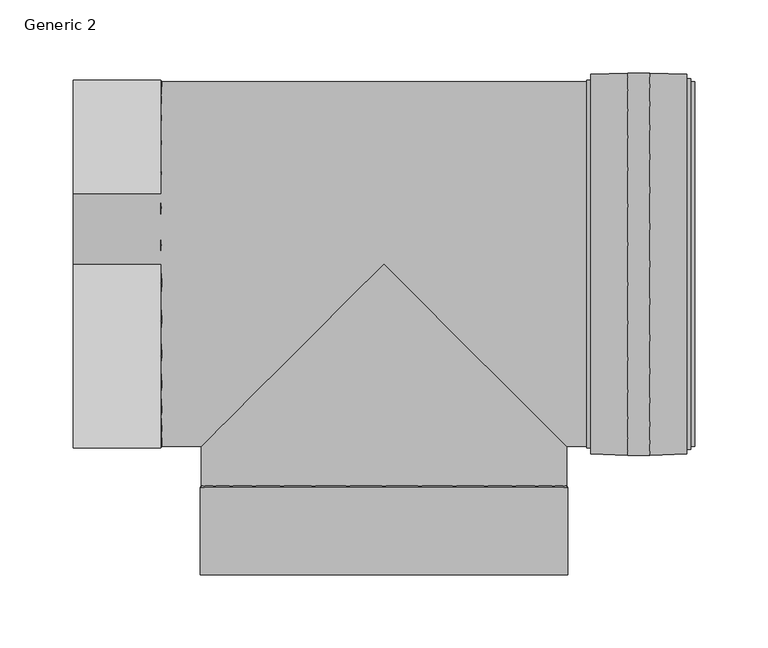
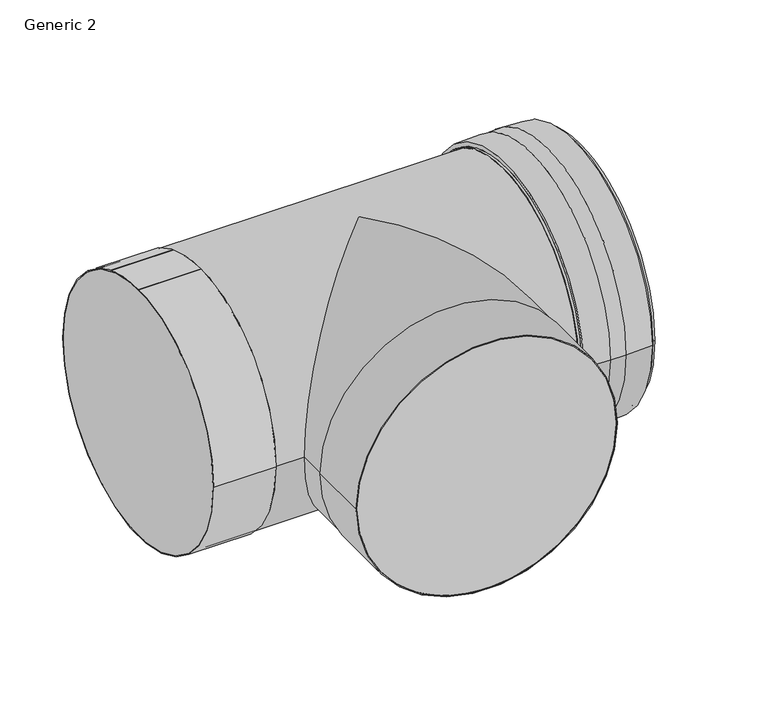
"""IFC4 building model written with IfcOpenShell, lengths in millimetres: pipe fitting geometry, CADS_Jeremias_Tee1 : Generic 2."""

import ifcopenshell
import ifcopenshell.guid

model = None  # the IFC model being written
_history = None  # IfcOwnerHistory: only IFC2X3 demands one
_inside = {}  # id of a spatial element -> (the spatial element, [elements in it])
_under = {}  # id of a project, library or spatial element -> (it, [spatial elements below it])
_declared = {}  # id of a project -> (the project, [libraries it declares])
_typed = {}  # id of a type object -> (the type object, [elements of that type])
_made_of = {}  # id of a material, layer set ... -> (it, [elements and type objects made of it])


def new_model(schema):
    """Start an empty IFC model of exactly this schema.

    Asked for "IFC4X3", IfcOpenShell would pick the latest addendum, in which some entities
    have other attributes; the version numbers below select the first issue.
    IFC2X3 requires an IfcOwnerHistory on every rooted entity: one is made here for all.
    """
    global model, _history
    if schema == "IFC4X3":
        model = ifcopenshell.file(schema_version=(4, 3, 0, 0))
    else:
        model = ifcopenshell.file(schema=schema)
    _inside.clear()
    _under.clear()
    _declared.clear()
    _typed.clear()
    _made_of.clear()
    _history = None
    if model.schema == "IFC2X3":
        org = make("IfcOrganization", Name="unknown")
        user = make(
            "IfcPersonAndOrganization",
            ThePerson=make("IfcPerson", FamilyName="unknown"),
            TheOrganization=org,
        )
        app = make(
            "IfcApplication",
            ApplicationDeveloper=org,
            Version="unknown",
            ApplicationFullName="unknown",
            ApplicationIdentifier="unknown",
        )
        _history = make(
            "IfcOwnerHistory",
            OwningUser=user,
            OwningApplication=app,
            ChangeAction="ADDED",
            CreationDate=0,
        )
    return model


def make(cls, **values):
    """One entity of the class cls with the attributes given. An attribute that is None is left unset."""
    return model.create_entity(
        cls, **{name: value for name, value in values.items() if value is not None}
    )


def rooted(cls, **values):
    """An entity with a GlobalId (a new one), such as an element, a storey or a relation."""
    return make(cls, GlobalId=ifcopenshell.guid.new(), OwnerHistory=_history, **values)


def si_unit(unit_type, name, prefix=None):
    """IfcSIUnit, for example si_unit("LENGTHUNIT", "METRE", prefix="MILLI")."""
    return make("IfcSIUnit", UnitType=unit_type, Prefix=prefix, Name=name)


def assignment(units):
    """IfcUnitAssignment: the units of a project."""
    return None if units is None else make("IfcUnitAssignment", Units=units)


def point(xyz):
    """IfcCartesianPoint."""
    return None if xyz is None else make("IfcCartesianPoint", Coordinates=xyz)


def direction(xyz):
    """IfcDirection."""
    return None if xyz is None else make("IfcDirection", DirectionRatios=xyz)


def frame(location, z_axis=None, x_axis=None):
    """IfcAxis2Placement3D, a coordinate frame: its origin and axes. An axis left out is left unset."""
    return make(
        "IfcAxis2Placement3D",
        Location=point(location),
        Axis=direction(z_axis),
        RefDirection=direction(x_axis),
    )


def origin():
    """The frame at (0, 0, 0) with its axes left unset."""
    return frame((0.0, 0.0, 0.0))


def place(relative_to, where):
    """IfcLocalPlacement: puts the frame where relative to a parent placement (None: the world)."""
    return make(
        "IfcLocalPlacement", PlacementRelTo=relative_to, RelativePlacement=where
    )


def context(
    kind, dimensions, precision=None, world=None, true_north=None, identifier=None
):
    """IfcGeometricRepresentationContext, for example the 3D "Model" context."""
    return make(
        "IfcGeometricRepresentationContext",
        ContextIdentifier=identifier,
        ContextType=kind,
        CoordinateSpaceDimension=dimensions,
        Precision=precision,
        WorldCoordinateSystem=world,
        TrueNorth=true_north,
    )


def project(units=None, contexts=None):
    """IfcProject with its units and contexts."""
    return rooted(
        "IfcProject",
        Name="project",
        RepresentationContexts=contexts,
        UnitsInContext=assignment(units),
    )


def spatial(cls, under=None, at=None, **own):
    """A site, building, storey or space (cls), placed at a placement, below another one or the project."""
    s = rooted(cls, ObjectPlacement=at, **own)
    if under is not None:
        _under.setdefault(under.id(), (under, []))[1].append(s)
    return s


def polyline(points):
    """IfcPolyline through the points."""
    return make("IfcPolyline", Points=[point(p) for p in points])


def circle_curve(where, radius):
    """IfcCircle in the frame where."""
    return make("IfcCircle", Position=where, Radius=radius)


def ellipse_curve(where, semi_axis1, semi_axis2):
    """IfcEllipse in the frame where."""
    return make(
        "IfcEllipse", Position=where, SemiAxis1=semi_axis1, SemiAxis2=semi_axis2
    )


def trimmed(basis, trim1, trim2, sense, master):
    """IfcTrimmedCurve: the piece of a basis curve between two trims."""
    return make(
        "IfcTrimmedCurve",
        BasisCurve=basis,
        Trim1=trim1,
        Trim2=trim2,
        SenseAgreement=sense,
        MasterRepresentation=master,
    )


def shape(context_of_items, identifier, shape_type, items):
    """IfcShapeRepresentation: the items that make up one representation, for example the "Body"."""
    return make(
        "IfcShapeRepresentation",
        ContextOfItems=context_of_items,
        RepresentationIdentifier=identifier,
        RepresentationType=shape_type,
        Items=items,
    )


def source(mapping_origin, context_of_items, identifier, shape_type, items):
    """IfcRepresentationMap: a shape defined once, which mapped items show again and again."""
    return make(
        "IfcRepresentationMap",
        MappingOrigin=mapping_origin,
        MappedRepresentation=shape(context_of_items, identifier, shape_type, items),
    )


def transform(
    local_origin,
    x_axis=None,
    y_axis=None,
    z_axis=None,
    scale=None,
    scale2=None,
    scale3=None,
    uniform=True,
):
    """IfcCartesianTransformationOperator3D, or its non-uniform kind. x_axis, y_axis, z_axis: its Axis1, 2, 3."""
    if uniform:
        return make(
            "IfcCartesianTransformationOperator3D",
            Axis1=direction(x_axis),
            Axis2=direction(y_axis),
            LocalOrigin=point(local_origin),
            Scale=scale,
            Axis3=direction(z_axis),
        )
    return make(
        "IfcCartesianTransformationOperator3DnonUniform",
        Axis1=direction(x_axis),
        Axis2=direction(y_axis),
        LocalOrigin=point(local_origin),
        Scale=scale,
        Axis3=direction(z_axis),
        Scale2=scale2,
        Scale3=scale3,
    )


def mapped(mapping_source, mapping_target):
    """IfcMappedItem: shows the shape of a source again, moved by a transform."""
    return make(
        "IfcMappedItem", MappingSource=mapping_source, MappingTarget=mapping_target
    )


def made_of(thing, what):
    """Note that an element or type object is made of a material, layer set ...; save() writes the relation."""
    if what is not None:
        _made_of.setdefault(what.id(), (what, []))[1].append(thing)
    return thing


def element(
    cls,
    number,
    at=None,
    inside=None,
    cuts=None,
    type_object=None,
    material=None,
    context=None,
    identifier="Body",
    shape_type=None,
    held_by="IfcProductDefinitionShape",
    body=None,
    shapes=None,
    **own,
):
    """One element of the class cls, such as IfcWall. Its Tag is "e" and its number.

    at: its placement. inside: the storey or other place that contains it. cuts: it is an
    opening in that element (IfcRelVoidsElement). A single representation is given by context,
    identifier, shape_type and body (its items); several are given by shapes. held_by: the class
    of the entity that holds the representations. save() writes the other relations.
    """
    e = rooted(cls, Tag="e%d" % number, ObjectPlacement=at, **own)
    if body is not None:
        shapes = [shape(context, identifier, shape_type, body)]
    if shapes is not None:
        e.Representation = make(held_by, Representations=shapes)
    if inside is not None:
        _inside.setdefault(inside.id(), (inside, []))[1].append(e)
    if cuts is not None:
        rooted(
            "IfcRelVoidsElement", RelatingBuildingElement=cuts, RelatedOpeningElement=e
        )
    if type_object is not None:
        _typed.setdefault(type_object.id(), (type_object, []))[1].append(e)
    return made_of(e, material)


def aggregate(whole, parts):
    """IfcRelAggregates: a whole, such as a stair, and the parts it consists of."""
    return rooted("IfcRelAggregates", RelatingObject=whole, RelatedObjects=parts)


def save(model, path):
    """Write the relations noted so far, then the file.

    IfcRelAggregates (storeys below a building ...), IfcRelContainedInSpatialStructure (elements
    in a storey), IfcRelDefinesByType, IfcRelAssociatesMaterial and IfcRelDeclares: one each for
    every whole, place, type object, material and project.
    """
    for whole, parts in _under.values():
        aggregate(whole, parts)
    for where, things in _inside.values():
        rooted(
            "IfcRelContainedInSpatialStructure",
            RelatedElements=things,
            RelatingStructure=where,
        )
    for kind, things in _typed.values():
        rooted("IfcRelDefinesByType", RelatedObjects=things, RelatingType=kind)
    for what, things in _made_of.values():
        rooted("IfcRelAssociatesMaterial", RelatedObjects=things, RelatingMaterial=what)
    for by, libraries in _declared.values():
        rooted("IfcRelDeclares", RelatingContext=by, RelatedDefinitions=libraries)
    model.write(path)


def plane_surface(at):
    """IfcPlane: the flat surface through the origin of the frame at, square to its z axis."""
    return make("IfcPlane", Position=at)


def cylinder_surface(at, radius):
    """IfcCylindricalSurface: all points at the distance radius from the z axis of the frame at."""
    return make("IfcCylindricalSurface", Position=at, Radius=radius)


def revolved_surface(curve, axis_point, axis_direction):
    """IfcSurfaceOfRevolution: the curve turned about the line through axis_point along axis_direction."""
    return make(
        "IfcSurfaceOfRevolution",
        SweptCurve=make("IfcArbitraryOpenProfileDef", ProfileType="CURVE", Curve=curve),
        AxisPosition=make("IfcAxis1Placement", Location=point(axis_point), Axis=direction(axis_direction)),
    )


def advanced_brep(points, edges, surfaces, faces):
    """IfcAdvancedBrep: a solid bounded by faces that lie on surfaces and meet in shared edges.

    An edge is (start, end): straight between two places in points (the first is 0);
    or (start, end, curve); or (start, end, curve, False) where it runs against its curve.
    A face is (place in surfaces, loops), or (place, loops, False) where it looks against
    its surface's normal. A loop lists edges by number (the first is 1), with a minus sign
    where the edge is run from its end to its start. The first loop is the outer one.
    """
    corners = [point(p) for p in points]
    vertices = [make("IfcVertexPoint", VertexGeometry=c) for c in corners]
    made = []
    for start, end, *more in edges:
        made.append(
            make(
                "IfcEdgeCurve",
                EdgeStart=vertices[start],
                EdgeEnd=vertices[end],
                EdgeGeometry=more[0] if more else make("IfcPolyline", Points=[corners[start], corners[end]]),
                SameSense=more[1] if len(more) > 1 else True,
            )
        )
    hull = []
    for where, loops, *sense in faces:
        bounds = []
        for j, loop in enumerate(loops):
            ring = [make("IfcOrientedEdge", EdgeElement=made[abs(k) - 1], Orientation=k > 0) for k in loop]
            bounds.append(
                make(
                    "IfcFaceOuterBound" if j == 0 else "IfcFaceBound",
                    Bound=make("IfcEdgeLoop", EdgeList=ring),
                    Orientation=True,
                )
            )
        hull.append(make("IfcAdvancedFace", Bounds=bounds, FaceSurface=surfaces[where], SameSense=sense[0] if sense else True))
    return make("IfcAdvancedBrep", Outer=make("IfcClosedShell", CfsFaces=hull))


def generic_2_eab2cc1d(model_context):
    return source(origin(), model_context, "Body", "AdvancedBrep", [
        advanced_brep(
        [(209.9642357, -125.0, 0.0), (209.9642357, 125.0, 0.0), (139.0, 125.0, 0.0), (139.0, -125.0, 0.0), (207.4642357, -127.0, 0.0), (207.4642357, 127.0, 0.0), (209.9642357, 127.0, 0.0), (209.9642357, -127.0, 0.0), (139.0, -126.0062895, 0.0), (139.0, 126.0062895, 0.0), (141.5, 126.0062895, 0.0), (141.5, -126.0062895, 0.0), (207.4642357, 130.0, 0.0), (207.4642357, -130.0, 0.0), (141.5, -130.0, 0.0), (141.5, 130.0, 0.0), (181.9821179, -130.9818268, 0.0), (181.9821179, 130.9818268, 0.0), (166.9821179, -130.9818268, 0.0), (166.9821179, 130.9818268, 0.0)],
        [
            (0, 1, circle_curve(frame((209.9642357, 0.0, 0.0), z_axis=(1.0, 0.0, 0.0), x_axis=(0.0, 1.0, 0.0)), 125.0)),
            (1, 2),
            (2, 3, circle_curve(frame((139.0, 0.0, 0.0), z_axis=(-1.0, 0.0, 0.0), x_axis=(0.0, 1.0, 0.0)), 125.0)),
            (3, 0),
            (4, 5, circle_curve(frame((207.4642357, 0.0, 0.0), z_axis=(1.0, 0.0, 0.0), x_axis=(0.0, 1.0, 0.0)), 127.0)),
            (5, 6),
            (6, 7, circle_curve(frame((209.9642357, 0.0, 0.0), z_axis=(-1.0, 0.0, 0.0), x_axis=(0.0, 1.0, 0.0)), 127.0)),
            (7, 4),
            (8, 9, circle_curve(frame((139.0, 0.0, 0.0), z_axis=(1.0, 0.0, 0.0), x_axis=(0.0, 1.0, 0.0)), 126.0062895)),
            (9, 10),
            (10, 11, circle_curve(frame((141.5, 0.0, 0.0), z_axis=(-1.0, 0.0, 0.0), x_axis=(0.0, 1.0, 0.0)), 126.0062895)),
            (11, 8),
            (8, 9, circle_curve(frame((139.0, 0.0, 0.0), z_axis=(-1.0, 0.0, 0.0), x_axis=(0.0, -1.0, 0.0)), 126.0062895)),
            (2, 3, circle_curve(frame((139.0, 0.0, 0.0), z_axis=(1.0, 0.0, 0.0), x_axis=(0.0, -1.0, 0.0)), 125.0)),
            (1, 0, circle_curve(frame((209.9642357, 0.0, 0.0), z_axis=(1.0, 0.0, 0.0), x_axis=(0.0, -1.0, 0.0)), 125.0)),
            (6, 7, circle_curve(frame((209.9642357, 0.0, 0.0), z_axis=(1.0, 0.0, 0.0), x_axis=(0.0, -1.0, 0.0)), 127.0)),
            (5, 4, circle_curve(frame((207.4642357, 0.0, 0.0), z_axis=(1.0, 0.0, 0.0), x_axis=(0.0, -1.0, 0.0)), 127.0)),
            (12, 13, circle_curve(frame((207.4642357, 0.0, 0.0), z_axis=(1.0, 0.0, 0.0), x_axis=(0.0, -1.0, 0.0)), 130.0)),
            (13, 12, circle_curve(frame((207.4642357, 0.0, 0.0), z_axis=(1.0, 0.0, 0.0), x_axis=(0.0, 1.0, 0.0)), 130.0)),
            (14, 15, circle_curve(frame((141.5, 0.0, 0.0), z_axis=(-1.0, 0.0, 0.0), x_axis=(0.0, -1.0, 0.0)), 130.0)),
            (15, 14, circle_curve(frame((141.5, 0.0, 0.0), z_axis=(-1.0, 0.0, 0.0), x_axis=(0.0, 1.0, 0.0)), 130.0)),
            (10, 11, circle_curve(frame((141.5, 0.0, 0.0), z_axis=(1.0, 0.0, 0.0), x_axis=(0.0, -1.0, 0.0)), 126.0062895)),
            (16, 17, circle_curve(frame((181.9821179, 0.0, 0.0), z_axis=(1.0, 0.0, 0.0), x_axis=(0.0, 1.0, 0.0)), 130.9818268)),
            (17, 12, circle_curve(frame((181.9821179, -200.1877444, 0.0), z_axis=(0.0, 0.0, -1.0), x_axis=(0.0, -1.0, 0.0)), 331.1695712)),
            (13, 16, circle_curve(frame((181.9821179, 200.1877444, 0.0), z_axis=(0.0, 0.0, -1.0), x_axis=(0.0, 1.0, 0.0)), 331.1695712)),
            (18, 19, circle_curve(frame((166.9821179, 0.0, 0.0), z_axis=(1.0, 0.0, 0.0), x_axis=(0.0, 1.0, 0.0)), 130.9818268)),
            (19, 17),
            (16, 18),
            (15, 19, circle_curve(frame((166.9821179, -200.1877444, 0.0), z_axis=(0.0, 0.0, -1.0), x_axis=(0.0, -1.0, 0.0)), 331.1695712)),
            (18, 14, circle_curve(frame((166.9821179, 200.1877444, 0.0), z_axis=(0.0, 0.0, -1.0), x_axis=(0.0, 1.0, 0.0)), 331.1695712)),
            (17, 16, circle_curve(frame((181.9821179, 0.0, 0.0), z_axis=(1.0, 0.0, 0.0), x_axis=(0.0, -1.0, 0.0)), 130.9818268)),
            (19, 18, circle_curve(frame((166.9821179, 0.0, 0.0), z_axis=(1.0, 0.0, 0.0), x_axis=(0.0, -1.0, 0.0)), 130.9818268)),
        ],
        [
            revolved_surface(polyline([(139.0, 125.0, 0.0), (209.9642357, 125.0, 0.0)]), (153.0, 0.0, 0.0), (-1.0, 0.0, 0.0)),
            cylinder_surface(frame((153.0, 0.0, 0.0), z_axis=(-1.0, 0.0, 0.0), x_axis=(0.0, 1.0, 0.0)), 127.0),
            cylinder_surface(frame((153.0, 0.0, 0.0), z_axis=(-1.0, 0.0, 0.0), x_axis=(0.0, 1.0, 0.0)), 126.0062895),
            plane_surface(frame((139.0, 0.0, 0.0), z_axis=(-1.0, 0.0, 0.0), x_axis=(0.0, -1.0, 0.0))),
            revolved_surface(polyline([(139.0, -125.0, 0.0), (209.9642357, -125.0, 0.0)]), (153.0, 0.0, 0.0), (-1.0, 0.0, 0.0)),
            plane_surface(frame((209.9642357, 0.0, 0.0), z_axis=(1.0, 0.0, 0.0), x_axis=(0.0, -1.0, 0.0))),
            cylinder_surface(frame((153.0, 0.0, 0.0), z_axis=(-1.0, 0.0, 0.0), x_axis=(0.0, -1.0, 0.0)), 127.0),
            plane_surface(frame((207.4642357, 0.0, 0.0), z_axis=(1.0, 0.0, 0.0), x_axis=(0.0, -1.0, 0.0))),
            plane_surface(frame((141.5, 0.0, 0.0), z_axis=(-1.0, 0.0, 0.0), x_axis=(0.0, -1.0, 0.0))),
            cylinder_surface(frame((153.0, 0.0, 0.0), z_axis=(-1.0, 0.0, 0.0), x_axis=(0.0, -1.0, 0.0)), 126.0062895),
            revolved_surface(trimmed(ellipse_curve(frame((181.9821179, -200.1877444, 0.0), z_axis=(0.0, 0.0, 1.0), x_axis=(0.0, -1.0, 0.0)), 331.1695712, 331.1695712), [point((207.4642357, 130.0, 0.0))], [point((181.9821179, 130.9818268, 0.0))], True, "CARTESIAN"), (153.0, 0.0, 0.0), (-1.0, 0.0, 0.0)),
            cylinder_surface(frame((153.0, 0.0, 0.0), z_axis=(-1.0, 0.0, 0.0), x_axis=(0.0, 1.0, 0.0)), 130.9818268),
            revolved_surface(trimmed(ellipse_curve(frame((166.9821179, -200.1877444, 0.0), z_axis=(0.0, 0.0, 1.0), x_axis=(0.0, -1.0, 0.0)), 331.1695712, 331.1695712), [point((166.9821179, 130.9818268, 0.0))], [point((141.5, 130.0, 0.0))], True, "CARTESIAN"), (153.0, 0.0, 0.0), (-1.0, 0.0, 0.0)),
            revolved_surface(trimmed(ellipse_curve(frame((181.9821179, 200.1877444, 0.0), z_axis=(0.0, 0.0, -1.0), x_axis=(0.0, 1.0, 0.0)), 331.1695712, 331.1695712), [point((207.4642357, -130.0, 0.0))], [point((181.9821179, -130.9818268, 0.0))], True, "CARTESIAN"), (153.0, 0.0, 0.0), (-1.0, 0.0, 0.0)),
            cylinder_surface(frame((153.0, 0.0, 0.0), z_axis=(-1.0, 0.0, 0.0), x_axis=(0.0, -1.0, 0.0)), 130.9818268),
            revolved_surface(trimmed(ellipse_curve(frame((166.9821179, 200.1877444, 0.0), z_axis=(0.0, 0.0, -1.0), x_axis=(0.0, 1.0, 0.0)), 331.1695712, 331.1695712), [point((166.9821179, -130.9818268, 0.0))], [point((141.5, -130.0, 0.0))], True, "CARTESIAN"), (153.0, 0.0, 0.0), (-1.0, 0.0, 0.0)),
        ],
        [
            (0, [[1, 2, 3, 4]]),
            (1, [[5, 6, 7, 8]]),
            (2, [[9, 10, 11, 12]]),
            (3, [[13, -9], [14, -3]]),
            (4, [[15, -4, -14, -2]]),
            (5, [[16, -7], [-15, -1]]),
            (6, [[17, -8, -16, -6]]),
            (7, [[18, 19], [-17, -5]]),
            (8, [[20, 21], [22, -11]]),
            (9, [[-13, -12, -22, -10]]),
            (10, [[23, 24, -19, 25]]),
            (11, [[26, 27, -23, 28]]),
            (12, [[-21, 29, -26, 30]]),
            (13, [[31, -25, -18, -24]]),
            (14, [[32, -28, -31, -27]]),
            (15, [[-20, -30, -32, -29]]),
        ],
    ),
        advanced_brep(
        [(-126.0, -153.0, 0.0), (126.0, -153.0, 0.0), (126.0, -213.0, 0.0), (-126.0, -213.0, 0.0), (-125.0, -152.0, 0.0), (125.0, -152.0, 0.0), (-125.0, -213.0, 0.0), (125.0, -213.0, 0.0)],
        [
            (0, 1, circle_curve(frame((0.0, -153.0, 0.0), z_axis=(0.0, -1.0, 0.0), x_axis=(1.0, 0.0, 0.0)), 126.0)),
            (1, 2),
            (2, 3, circle_curve(frame((0.0, -213.0, 0.0), z_axis=(0.0, 1.0, 0.0), x_axis=(1.0, 0.0, 0.0)), 126.0)),
            (3, 0),
            (4, 5, circle_curve(frame((0.0, -152.0, 0.0), z_axis=(0.0, -1.0, 0.0), x_axis=(1.0, 0.0, 0.0)), 125.0)),
            (5, 1),
            (0, 4),
            (6, 7, circle_curve(frame((0.0, -213.0, 0.0), z_axis=(0.0, -1.0, 0.0), x_axis=(1.0, 0.0, 0.0)), 125.0)),
            (7, 5),
            (4, 6),
            (2, 3, circle_curve(frame((0.0, -213.0, 0.0), z_axis=(0.0, -1.0, 0.0), x_axis=(-1.0, 0.0, 0.0)), 126.0)),
            (6, 7, circle_curve(frame((0.0, -213.0, 0.0), z_axis=(0.0, 1.0, 0.0), x_axis=(-1.0, 0.0, 0.0)), 125.0)),
            (1, 0, circle_curve(frame((0.0, -153.0, 0.0), z_axis=(0.0, -1.0, 0.0), x_axis=(-1.0, 0.0, 0.0)), 126.0)),
            (5, 4, circle_curve(frame((0.0, -152.0, 0.0), z_axis=(0.0, -1.0, 0.0), x_axis=(-1.0, 0.0, 0.0)), 125.0)),
        ],
        [
            cylinder_surface(frame((0.0, -213.0, 0.0), z_axis=(0.0, 1.0, 0.0), x_axis=(1.0, 0.0, 0.0)), 126.0),
            revolved_surface(polyline([(126.0, -153.0, 0.0), (125.0, -152.0, 0.0)]), (0.0, -213.0, 0.0), (0.0, 1.0, 0.0)),
            revolved_surface(polyline([(125.0, -152.0, 0.0), (125.0, -213.0, 0.0)]), (0.0, -213.0, 0.0), (0.0, 1.0, 0.0)),
            plane_surface(frame((0.0, -213.0, 0.0), z_axis=(0.0, -1.0, 0.0), x_axis=(-1.0, 0.0, 0.0))),
            cylinder_surface(frame((0.0, -213.0, 0.0), z_axis=(0.0, 1.0, 0.0), x_axis=(-1.0, 0.0, 0.0)), 126.0),
            revolved_surface(polyline([(-126.0, -153.0, 0.0), (-125.0, -152.0, 0.0)]), (0.0, -213.0, 0.0), (0.0, 1.0, 0.0)),
            revolved_surface(polyline([(-125.0, -152.0, 0.0), (-125.0, -213.0, 0.0)]), (0.0, -213.0, 0.0), (0.0, 1.0, 0.0)),
        ],
        [
            (0, [[1, 2, 3, 4]]),
            (1, [[5, 6, -1, 7]]),
            (2, [[8, 9, -5, 10]]),
            (3, [[11, -3], [12, -8]]),
            (4, [[13, -4, -11, -2]]),
            (5, [[14, -7, -13, -6]]),
            (6, [[-12, -10, -14, -9]]),
        ],
    ),
        advanced_brep(
        [(-125.0, -213.0, 0.0), (125.0, -213.0, 0.0), (125.0, -125.0, 0.0), (0.0, 0.0, 125.0), (-125.0, -125.0, 0.0), (0.0, 0.0, -125.0), (-213.0, -125.0, 0.0), (-213.0, 125.0, 0.0), (213.0, -125.0, 0.0), (213.0, 125.0, 0.0)],
        [
            (0, 1, circle_curve(frame((0.0, -213.0, 0.0), z_axis=(0.0, -1.0, 0.0), x_axis=(1.0, 0.0, 0.0)), 125.0)),
            (1, 0, circle_curve(frame((0.0, -213.0, 0.0), z_axis=(0.0, -1.0, 0.0), x_axis=(1.0, 0.0, 0.0)), 125.0)),
            (1, 2),
            (2, 3, ellipse_curve(frame((0.0, 0.0, 0.0), z_axis=(-0.7071067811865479, -0.7071067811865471, 0.0), x_axis=(-0.707106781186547, 0.7071067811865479, 0.0)), 176.7766953, 125.0)),
            (3, 4, ellipse_curve(frame((0.0, 0.0, 0.0), z_axis=(0.7071067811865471, -0.7071067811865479, 0.0), x_axis=(0.7071067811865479, 0.7071067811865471, 0.0)), 176.7766953, 125.0)),
            (4, 0),
            (4, 5, ellipse_curve(frame((0.0, 0.0, 0.0), z_axis=(0.7071067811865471, -0.7071067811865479, 0.0), x_axis=(0.7071067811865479, 0.7071067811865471, 0.0)), 176.7766953, 125.0)),
            (5, 2, ellipse_curve(frame((0.0, 0.0, 0.0), z_axis=(-0.7071067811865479, -0.7071067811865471, 0.0), x_axis=(-0.707106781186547, 0.7071067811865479, 0.0)), 176.7766953, 125.0)),
            (6, 7, circle_curve(frame((-213.0, 0.0, 0.0), z_axis=(-1.0, 0.0, 0.0), x_axis=(0.0, 1.0, 0.0)), 125.0)),
            (7, 6, circle_curve(frame((-213.0, 0.0, 0.0), z_axis=(-1.0, 0.0, 0.0), x_axis=(0.0, 1.0, 0.0)), 125.0)),
            (8, 9, circle_curve(frame((213.0, 0.0, 0.0), z_axis=(1.0, 0.0, 0.0), x_axis=(0.0, 1.0, 0.0)), 125.0)),
            (9, 8, circle_curve(frame((213.0, 0.0, 0.0), z_axis=(1.0, 0.0, 0.0), x_axis=(0.0, 1.0, 0.0)), 125.0)),
            (6, 4),
            (2, 8),
            (9, 7),
        ],
        [
            plane_surface(frame((0.0, -213.0, 0.0), z_axis=(0.0, -1.0, 0.0), x_axis=(0.0, 0.0, 1.0))),
            cylinder_surface(frame((0.0, 0.0, 0.0), z_axis=(0.0, 1.0, 0.0), x_axis=(1.0, 0.0, 0.0)), 125.0),
            plane_surface(frame((-213.0, 0.0, 0.0), z_axis=(-1.0, 0.0, 0.0), x_axis=(0.0, 0.0, 1.0))),
            plane_surface(frame((213.0, 0.0, 0.0), z_axis=(1.0, 0.0, 0.0), x_axis=(0.0, 0.0, 1.0))),
            cylinder_surface(frame((-213.0, 0.0, 0.0), z_axis=(-1.0, 0.0, 0.0), x_axis=(0.0, 1.0, 0.0)), 125.0),
        ],
        [
            (0, [[1, 2]]),
            (1, [[-2, 3, 4, 5, 6]]),
            (1, [[-1, -6, 7, 8, -3]]),
            (2, [[9, 10]]),
            (3, [[11, 12]]),
            (4, [[-9, 13, -5, -4, 14, -12, 15]]),
            (4, [[-10, -15, -11, -14, -8, -7, -13]]),
        ],
    ),
        advanced_brep(
        [(-153.0, 126.0, 0.0), (-153.0, -126.0, 0.0), (-213.0, -126.0, 0.0), (-213.0, 126.0, 0.0), (-152.0, 125.0, 0.0), (-152.0, -125.0, 0.0), (-213.0, 125.0, 0.0), (-213.0, -125.0, 0.0)],
        [
            (0, 1, circle_curve(frame((-153.0, 0.0, 0.0), z_axis=(-1.0, 0.0, 0.0), x_axis=(0.0, -1.0, 0.0)), 126.0)),
            (1, 2),
            (2, 3, circle_curve(frame((-213.0, 0.0, 0.0), z_axis=(1.0, 0.0, 0.0), x_axis=(0.0, -1.0, 0.0)), 126.0)),
            (3, 0),
            (4, 5, circle_curve(frame((-152.0, 0.0, 0.0), z_axis=(-1.0, 0.0, 0.0), x_axis=(0.0, -1.0, 0.0)), 125.0)),
            (5, 1),
            (0, 4),
            (6, 7, circle_curve(frame((-213.0, 0.0, 0.0), z_axis=(-1.0, 0.0, 0.0), x_axis=(0.0, -1.0, 0.0)), 125.0)),
            (7, 5),
            (4, 6),
            (2, 3, circle_curve(frame((-213.0, 0.0, 0.0), z_axis=(-1.0, 0.0, 0.0), x_axis=(0.0, 1.0, 0.0)), 126.0)),
            (6, 7, circle_curve(frame((-213.0, 0.0, 0.0), z_axis=(1.0, 0.0, 0.0), x_axis=(0.0, 1.0, 0.0)), 125.0)),
            (1, 0, circle_curve(frame((-153.0, 0.0, 0.0), z_axis=(-1.0, 0.0, 0.0), x_axis=(0.0, 1.0, 0.0)), 126.0)),
            (5, 4, circle_curve(frame((-152.0, 0.0, 0.0), z_axis=(-1.0, 0.0, 0.0), x_axis=(0.0, 1.0, 0.0)), 125.0)),
        ],
        [
            cylinder_surface(frame((-213.0, 0.0, 0.0), z_axis=(1.0, 0.0, 0.0), x_axis=(0.0, -1.0, 0.0)), 126.0),
            revolved_surface(polyline([(-153.0, -126.0, 0.0), (-152.0, -125.0, 0.0)]), (-213.0, 0.0, 0.0), (1.0, 0.0, 0.0)),
            revolved_surface(polyline([(-152.0, -125.0, 0.0), (-213.0, -125.0, 0.0)]), (-213.0, 0.0, 0.0), (1.0, 0.0, 0.0)),
            plane_surface(frame((-213.0, 0.0, 0.0), z_axis=(-1.0, 0.0, 0.0), x_axis=(0.0, 1.0, 0.0))),
            cylinder_surface(frame((-213.0, 0.0, 0.0), z_axis=(1.0, 0.0, 0.0), x_axis=(0.0, 1.0, 0.0)), 126.0),
            revolved_surface(polyline([(-153.0, 126.0, 0.0), (-152.0, 125.0, 0.0)]), (-213.0, 0.0, 0.0), (1.0, 0.0, 0.0)),
            revolved_surface(polyline([(-152.0, 125.0, 0.0), (-213.0, 125.0, 0.0)]), (-213.0, 0.0, 0.0), (1.0, 0.0, 0.0)),
        ],
        [
            (0, [[1, 2, 3, 4]]),
            (1, [[5, 6, -1, 7]]),
            (2, [[8, 9, -5, 10]]),
            (3, [[11, -3], [12, -8]]),
            (4, [[13, -4, -11, -2]]),
            (5, [[14, -7, -13, -6]]),
            (6, [[-12, -10, -14, -9]]),
        ],
    ),
    ])


if __name__ == "__main__":
    model = new_model("IFC4")
    model_context = context("Model", 3, world=origin())
    ifc_project = project(units=[si_unit("LENGTHUNIT", "METRE", prefix="MILLI")], contexts=[model_context])
    site = spatial("IfcSite", under=ifc_project)
    building = spatial("IfcBuilding", under=site)
    placement = place(None, origin())
    generic_2_shape = generic_2_eab2cc1d(model_context)
    element("IfcPipeFitting", 1, ObjectType="CADS_Jeremias_Tee1 : Generic 2", at=placement, inside=building, context=model_context, shape_type="MappedRepresentation", body=[
        mapped(generic_2_shape, transform((0.0, 0.0, 0.0), x_axis=(1.0, 0.0, 0.0), y_axis=(0.0, 1.0, 0.0), z_axis=(0.0, 0.0, 1.0))),
    ])
    save(model, "model.ifc")
